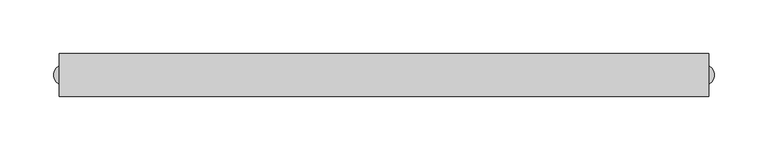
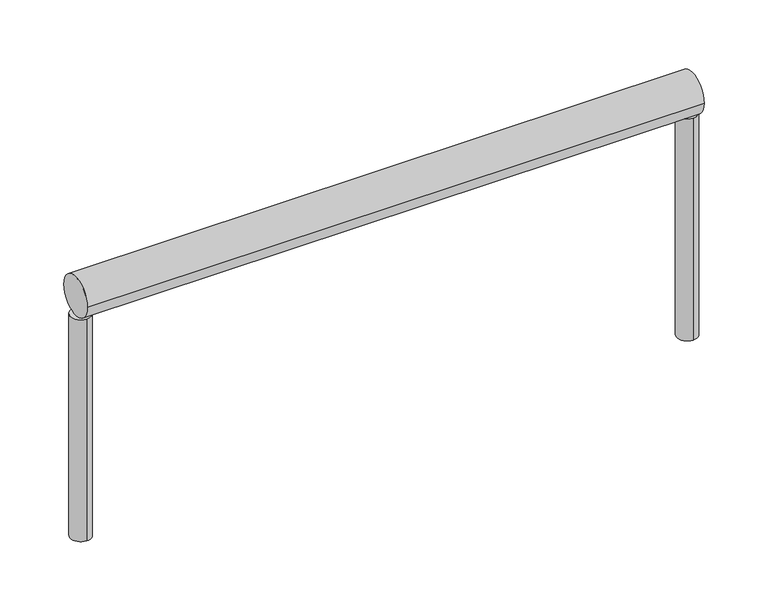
"""IFC4 building model written with IfcOpenShell, lengths in millimetres: railing geometry, Geländer-1."""

from ifc_helpers import new_model, si_unit, point, frame, frame_2d, origin, place, context, project, spatial, circle_curve, trimmed, segment, composite_curve, outline, extrude, source, transform, mapped, element, save


def railing_986e0a8e(model_context):
    return source(origin(), model_context, "Body", "SweptSolid", [
        extrude(outline(composite_curve([segment(trimmed(circle_curve(frame_2d((11985.0, 1250.0)), 20.0), [point((11965.0, 1250.0))], [point((12005.0, 1250.0))], False, "CARTESIAN"), True, "CONTINUOUS"), segment(trimmed(circle_curve(frame_2d((11985.0, 1250.0)), 20.0), [point((12005.0, 1250.0))], [point((11965.0, 1250.0))], False, "CARTESIAN"), True, "CONTINUOUS")], self_intersect=False)), frame((15.0, 0.0, 0.0), z_axis=(1.0, 0.0, 0.0), x_axis=(0.0, 1.0, 0.0)), (0.0, 0.0, 1.0), 605.0),
        extrude(outline(composite_curve([segment(trimmed(circle_curve(frame_2d((20.0, 11985.0)), 10.0), [point((20.0, 11975.0))], [point((20.0, 11995.0))], False, "CARTESIAN"), True, "CONTINUOUS"), segment(trimmed(circle_curve(frame_2d((20.0, 11985.0)), 10.0), [point((20.0, 11995.0))], [point((20.0, 11975.0))], False, "CARTESIAN"), True, "CONTINUOUS")], self_intersect=False)), frame((0.0, 0.0, 1000.0), z_axis=(0.0, 0.0, 1.0), x_axis=(1.0, 0.0, 0.0)), (0.0, 0.0, 1.0), 230.0),
        extrude(outline(composite_curve([segment(trimmed(circle_curve(frame_2d((615.0, 11985.0)), 10.0), [point((615.0, 11975.0))], [point((615.0, 11995.0))], False, "CARTESIAN"), True, "CONTINUOUS"), segment(trimmed(circle_curve(frame_2d((615.0, 11985.0)), 10.0), [point((615.0, 11995.0))], [point((615.0, 11975.0))], False, "CARTESIAN"), True, "CONTINUOUS")], self_intersect=False)), frame((0.0, 0.0, 1000.0), z_axis=(0.0, 0.0, 1.0), x_axis=(1.0, 0.0, 0.0)), (0.0, 0.0, 1.0), 230.0),
    ])


if __name__ == "__main__":
    model = new_model("IFC4")
    model_context = context("Model", 3, world=origin())
    ifc_project = project(units=[si_unit("LENGTHUNIT", "METRE", prefix="MILLI")], contexts=[model_context])
    site = spatial("IfcSite", under=ifc_project)
    building = spatial("IfcBuilding", under=site)
    placement = place(None, origin())
    railing_shape = railing_986e0a8e(model_context)
    element("IfcRailing", 1, ObjectType="Geländer-1", at=placement, inside=building, context=model_context, shape_type="MappedRepresentation", body=[
        mapped(railing_shape, transform((0.0, 0.0, 0.0), x_axis=(1.0, 0.0, 0.0), y_axis=(0.0, 1.0, 0.0), z_axis=(0.0, 0.0, 1.0))),
    ])
    save(model, "model.ifc")
